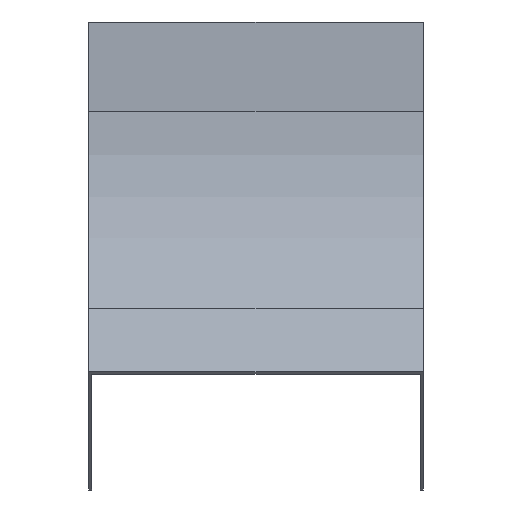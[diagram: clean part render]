
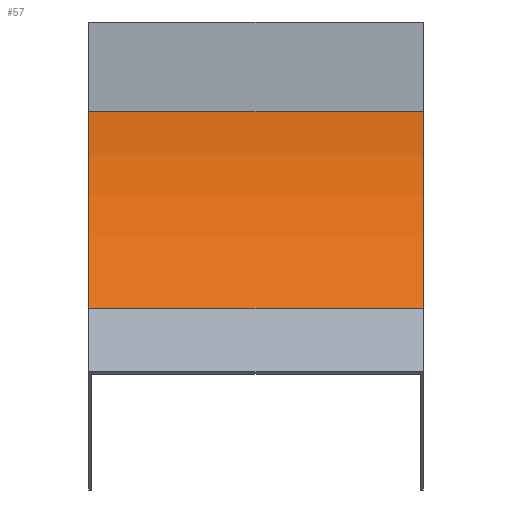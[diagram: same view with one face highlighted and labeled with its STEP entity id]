
A CAD part, front view. The second image highlights one B-rep face of the part: STEP entity #57.
In plain terms, the highlighted cylindrical face has radius 125 mm (diameter 250 mm), a partial arc.
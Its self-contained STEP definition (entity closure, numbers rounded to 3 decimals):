
#57 = ADVANCED_FACE ( 'NONE', ( #1553 ), #490, .F. ) ;
#69 = DIRECTION ( 'NONE',  ( -1., 0., 0. ) ) ;
#74 = ORIENTED_EDGE ( 'NONE', *, *, #93, .F. ) ;
#78 = VERTEX_POINT ( 'NONE', #377 ) ;
#93 = EDGE_CURVE ( 'NONE', #78, #160, #903, .T. ) ;
#128 = CARTESIAN_POINT ( 'NONE',  ( 75., -125., -40. ) ) ;
#137 = VERTEX_POINT ( 'NONE', #1448 ) ;
#149 = EDGE_LOOP ( 'NONE', ( #209, #1031, #74, #243 ) ) ;
#160 = VERTEX_POINT ( 'NONE', #534 ) ;
#209 = ORIENTED_EDGE ( 'NONE', *, *, #1049, .T. ) ;
#243 = ORIENTED_EDGE ( 'NONE', *, *, #532, .T. ) ;
#250 = AXIS2_PLACEMENT_3D ( 'NONE', #128, #1431, #1166 ) ;
#377 = CARTESIAN_POINT ( 'NONE',  ( 75., 0., -40. ) ) ;
#454 = CARTESIAN_POINT ( 'NONE',  ( 75., 0., -40. ) ) ;
#490 = CYLINDRICAL_SURFACE ( 'NONE', #1068, 125. ) ;
#532 = EDGE_CURVE ( 'NONE', #78, #137, #1074, .T. ) ;
#534 = CARTESIAN_POINT ( 'NONE',  ( 75., -36.612, -128.388 ) ) ;
#596 = DIRECTION ( 'NONE',  ( -1., 0., 0. ) ) ;
#609 = DIRECTION ( 'NONE',  ( 0., 0., 1. ) ) ;
#623 = CARTESIAN_POINT ( 'NONE',  ( 75., -125., -40. ) ) ;
#632 = EDGE_CURVE ( 'NONE', #160, #744, #721, .T. ) ;
#721 = LINE ( 'NONE', #1646, #1609 ) ;
#744 = VERTEX_POINT ( 'NONE', #1155 ) ;
#876 = VECTOR ( 'NONE', #69, 1000. ) ;
#903 = CIRCLE ( 'NONE', #250, 125. ) ;
#1031 = ORIENTED_EDGE ( 'NONE', *, *, #632, .F. ) ;
#1049 = EDGE_CURVE ( 'NONE', #137, #744, #1653, .T. ) ;
#1068 = AXIS2_PLACEMENT_3D ( 'NONE', #623, #1285, #1656 ) ;
#1074 = LINE ( 'NONE', #454, #876 ) ;
#1117 = AXIS2_PLACEMENT_3D ( 'NONE', #1141, #1260, #609 ) ;
#1141 = CARTESIAN_POINT ( 'NONE',  ( -75., -125., -40. ) ) ;
#1155 = CARTESIAN_POINT ( 'NONE',  ( -75., -36.612, -128.388 ) ) ;
#1166 = DIRECTION ( 'NONE',  ( 0., 0., 1. ) ) ;
#1260 = DIRECTION ( 'NONE',  ( -1., 0., 0. ) ) ;
#1285 = DIRECTION ( 'NONE',  ( -1., 0., 0. ) ) ;
#1431 = DIRECTION ( 'NONE',  ( -1., 0., 0. ) ) ;
#1448 = CARTESIAN_POINT ( 'NONE',  ( -75., 0., -40. ) ) ;
#1553 = FACE_OUTER_BOUND ( 'NONE', #149, .T. ) ;
#1609 = VECTOR ( 'NONE', #596, 1000. ) ;
#1646 = CARTESIAN_POINT ( 'NONE',  ( 75., -36.612, -128.388 ) ) ;
#1653 = CIRCLE ( 'NONE', #1117, 125. ) ;
#1656 = DIRECTION ( 'NONE',  ( 0., 0., 1. ) ) ;
